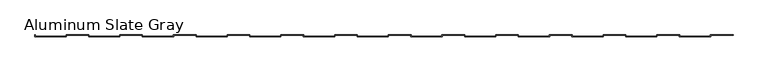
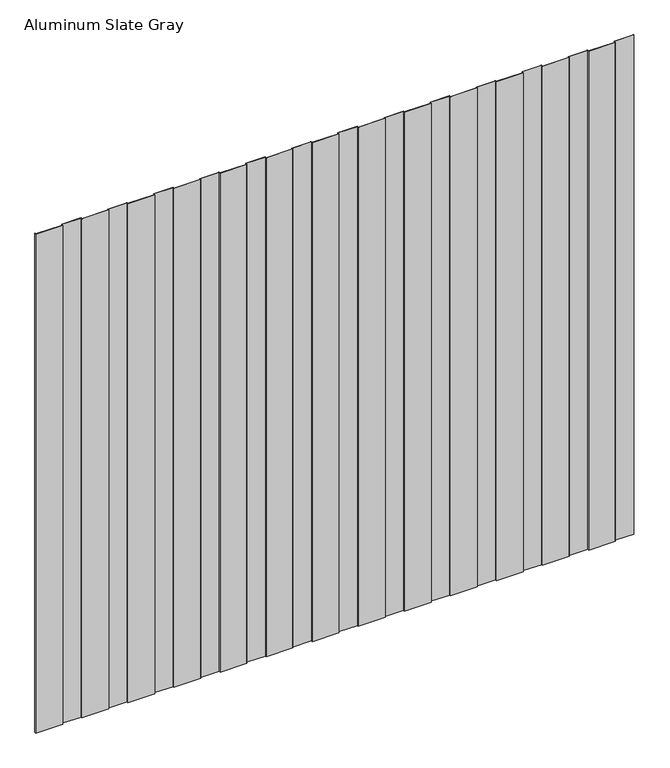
"""IFC4 building model written with IfcOpenShell, lengths in millimetres: proxy geometry, TitanTek VariPanel™ 1 Rib : Aluminum Slate Gray."""

from ifc_helpers import new_model, si_unit, origin, origin_with_axes, place, context, project, spatial, polyline, outline, extrude, source, transform, mapped, element, save


def aluminum_slate_gray_a4144698(model_context):
    return source(origin(), model_context, "Body", "SweptSolid", [
        extrude(outline(polyline([(4393.2078125, 0.0), (4540.25, 0.0), (4540.25, -0.9921875), (4394.2, -0.9921875), (4394.2, -11.1346212), (4191.0, -11.1346212), (4191.0, 0.0), (4191.9921875, 0.0), (4191.9921875, -10.1424337), (4393.2078125, -10.1424337), (4393.2078125, 0.0)])), origin_with_axes(), (0.0, 0.0, 1.0), 4000.0),
        extrude(outline(polyline([(4043.9578125, 0.0), (4191.0, 0.0), (4191.0, -0.9921875), (4044.95, -0.9921875), (4044.95, -11.1346212), (3841.75, -11.1346212), (3841.75, 0.0), (3842.7421875, 0.0), (3842.7421875, -10.1424337), (4043.9578125, -10.1424337), (4043.9578125, 0.0)])), origin_with_axes(), (0.0, 0.0, 1.0), 4000.0),
        extrude(outline(polyline([(3694.7078125, 0.0), (3841.75, 0.0), (3841.75, -0.9921875), (3695.7, -0.9921875), (3695.7, -11.1346212), (3492.5, -11.1346212), (3492.5, 0.0), (3493.4921875, 0.0), (3493.4921875, -10.1424337), (3694.7078125, -10.1424337), (3694.7078125, 0.0)])), origin_with_axes(), (0.0, 0.0, 1.0), 4000.0),
        extrude(outline(polyline([(3345.4578125, 0.0), (3492.5, 0.0), (3492.5, -0.9921875), (3346.45, -0.9921875), (3346.45, -11.1346212), (3143.25, -11.1346212), (3143.25, 0.0), (3144.2421875, 0.0), (3144.2421875, -10.1424337), (3345.4578125, -10.1424337), (3345.4578125, 0.0)])), origin_with_axes(), (0.0, 0.0, 1.0), 4000.0),
        extrude(outline(polyline([(2996.2078125, 0.0), (3143.25, 0.0), (3143.25, -0.9921875), (2997.2, -0.9921875), (2997.2, -11.1346212), (2794.0, -11.1346212), (2794.0, 0.0), (2794.9921875, 0.0), (2794.9921875, -10.1424337), (2996.2078125, -10.1424337), (2996.2078125, 0.0)])), origin_with_axes(), (0.0, 0.0, 1.0), 4000.0),
        extrude(outline(polyline([(2646.9578125, 0.0), (2794.0, 0.0), (2794.0, -0.9921875), (2647.95, -0.9921875), (2647.95, -11.1346212), (2444.75, -11.1346212), (2444.75, 0.0), (2445.7421875, 0.0), (2445.7421875, -10.1424337), (2646.9578125, -10.1424337), (2646.9578125, 0.0)])), origin_with_axes(), (0.0, 0.0, 1.0), 4000.0),
        extrude(outline(polyline([(2297.7078125, 0.0), (2444.75, 0.0), (2444.75, -0.9921875), (2298.7, -0.9921875), (2298.7, -11.1346212), (2095.5, -11.1346212), (2095.5, 0.0), (2096.4921875, 0.0), (2096.4921875, -10.1424337), (2297.7078125, -10.1424337), (2297.7078125, 0.0)])), origin_with_axes(), (0.0, 0.0, 1.0), 4000.0),
        extrude(outline(polyline([(1948.4578125, 0.0), (2095.5, 0.0), (2095.5, -0.9921875), (1949.45, -0.9921875), (1949.45, -11.1346212), (1746.25, -11.1346212), (1746.25, 0.0), (1747.2421875, 0.0), (1747.2421875, -10.1424337), (1948.4578125, -10.1424337), (1948.4578125, 0.0)])), origin_with_axes(), (0.0, 0.0, 1.0), 4000.0),
        extrude(outline(polyline([(1599.2078125, 0.0), (1746.25, 0.0), (1746.25, -0.9921875), (1600.2, -0.9921875), (1600.2, -11.1346212), (1397.0, -11.1346212), (1397.0, 0.0), (1397.9921875, 0.0), (1397.9921875, -10.1424337), (1599.2078125, -10.1424337), (1599.2078125, 0.0)])), origin_with_axes(), (0.0, 0.0, 1.0), 4000.0),
        extrude(outline(polyline([(1249.9578125, 0.0), (1397.0, 0.0), (1397.0, -0.9921875), (1250.95, -0.9921875), (1250.95, -11.1346212), (1047.75, -11.1346212), (1047.75, 0.0), (1048.7421875, 0.0), (1048.7421875, -10.1424337), (1249.9578125, -10.1424337), (1249.9578125, 0.0)])), origin_with_axes(), (0.0, 0.0, 1.0), 4000.0),
        extrude(outline(polyline([(900.7078125, 0.0), (1047.75, 0.0), (1047.75, -0.9921875), (901.7, -0.9921875), (901.7, -11.1346212), (698.5, -11.1346212), (698.5, 0.0), (699.4921875, 0.0), (699.4921875, -10.1424337), (900.7078125, -10.1424337), (900.7078125, 0.0)])), origin_with_axes(), (0.0, 0.0, 1.0), 4000.0),
        extrude(outline(polyline([(551.4578125, 0.0), (698.5, 0.0), (698.5, -0.9921875), (552.45, -0.9921875), (552.45, -11.1346212), (349.25, -11.1346212), (349.25, 0.0), (350.2421875, 0.0), (350.2421875, -10.1424337), (551.4578125, -10.1424337), (551.4578125, 0.0)])), origin_with_axes(), (0.0, 0.0, 1.0), 4000.0),
        extrude(outline(polyline([(202.2078125, 0.0), (349.25, 0.0), (349.25, -0.9921875), (203.2, -0.9921875), (203.2, -11.1346212), (0.0, -11.1346212), (0.0, 0.0), (0.9921875, 0.0), (0.9921875, -10.1424337), (202.2078125, -10.1424337), (202.2078125, 0.0)])), origin_with_axes(), (0.0, 0.0, 1.0), 4000.0),
    ])


if __name__ == "__main__":
    model = new_model("IFC4")
    model_context = context("Model", 3, world=origin())
    ifc_project = project(units=[si_unit("LENGTHUNIT", "METRE", prefix="MILLI")], contexts=[model_context])
    site = spatial("IfcSite", under=ifc_project)
    building = spatial("IfcBuilding", under=site)
    placement = place(None, origin())
    aluminum_slate_gray_shape = aluminum_slate_gray_a4144698(model_context)
    element("IfcBuildingElementProxy", 1, Name="TitanTek VariPanel™ 1 Rib : Aluminum Slate Gray", ObjectType="TitanTek VariPanel™ 1 Rib : Aluminum Slate Gray", at=placement, inside=building, context=model_context, shape_type="MappedRepresentation", body=[
        mapped(aluminum_slate_gray_shape, transform((0.0, 0.0, 0.0), x_axis=(1.0, 0.0, 0.0), y_axis=(0.0, 1.0, 0.0), z_axis=(0.0, 0.0, 1.0))),
    ])
    save(model, "model.ifc")
